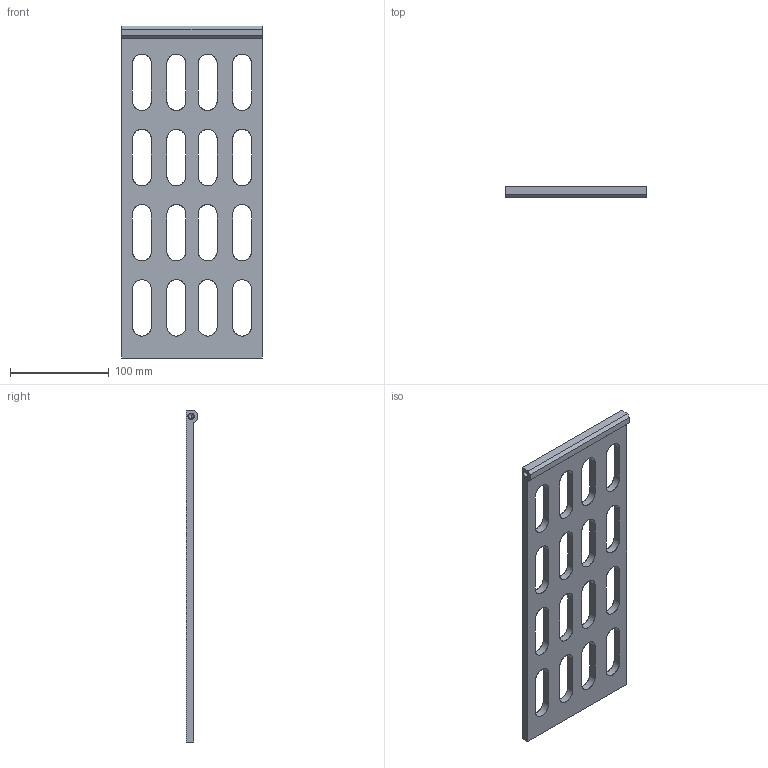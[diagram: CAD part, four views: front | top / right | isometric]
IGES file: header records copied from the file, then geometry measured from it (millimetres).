
Start section: SolidWorks IGES FILE using analytic representation for surfaces
Global section: file name: G:\Work In Progress\900252_ROV Marker Tool\900252-Release_Drawings\Clip Case Door.IGS; native system: SolidWorks 2003 by SolidWorks Corporation; preprocessor: Version 5.3; author: mob; date: 030129.110536; units: inch
Bounding box: 142.24 x 11.43 x 336.55 mm (x, y, z)
Surface area: 88650.1 mm2 (no closed solid volume)
Topology: 0 solids, 0 shells, 104 faces, 1696 edges, 1692 vertices
Faces by surface type: revolution 60, bspline 44
